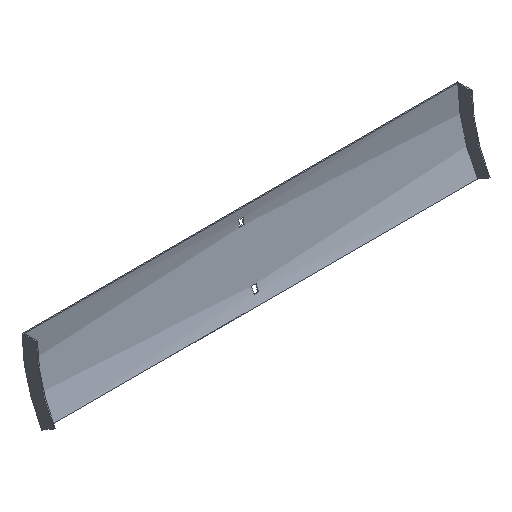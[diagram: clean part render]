
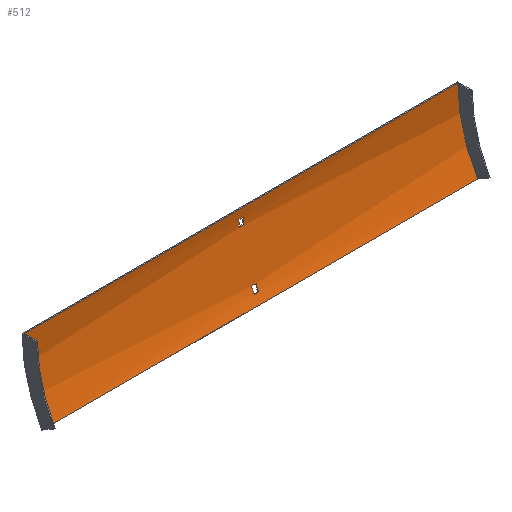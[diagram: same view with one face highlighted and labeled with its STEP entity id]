
A CAD part, isometric view. The second image highlights one B-rep face of the part: STEP entity #512.
In plain terms, the highlighted cylindrical face has radius 204 mm (diameter 408 mm), a partial arc.
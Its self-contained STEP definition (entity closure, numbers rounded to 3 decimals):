
#6 = DIRECTION ( 'NONE',  ( -1., 0., 0. ) ) ;
#9 = VERTEX_POINT ( 'NONE', #27 ) ;
#15 = EDGE_CURVE ( 'NONE', #68, #310, #190, .T. ) ;
#16 = ORIENTED_EDGE ( 'NONE', *, *, #15, .F. ) ;
#18 = VERTEX_POINT ( 'NONE', #457 ) ;
#24 = CARTESIAN_POINT ( 'NONE',  ( -3.25, -205.5, 0. ) ) ;
#27 = CARTESIAN_POINT ( 'NONE',  ( -302., -1.5, 0. ) ) ;
#30 = VECTOR ( 'NONE', #37, 1000. ) ;
#37 = DIRECTION ( 'NONE',  ( 1., 0., 0. ) ) ;
#46 = DIRECTION ( 'NONE',  ( 0., 0., 1. ) ) ;
#52 = CARTESIAN_POINT ( 'NONE',  ( -3.25, -19.269, -83.272 ) ) ;
#56 = LINE ( 'NONE', #241, #418 ) ;
#61 = CARTESIAN_POINT ( 'NONE',  ( 3.25, -19.269, -83.272 ) ) ;
#65 = DIRECTION ( 'NONE',  ( -1., 0., 0. ) ) ;
#68 = VERTEX_POINT ( 'NONE', #100 ) ;
#73 = AXIS2_PLACEMENT_3D ( 'NONE', #378, #242, #556 ) ;
#82 = EDGE_CURVE ( 'NONE', #282, #85, #243, .T. ) ;
#85 = VERTEX_POINT ( 'NONE', #518 ) ;
#94 = CARTESIAN_POINT ( 'NONE',  ( 302., -205.5, 0. ) ) ;
#95 = AXIS2_PLACEMENT_3D ( 'NONE', #246, #459, #46 ) ;
#100 = CARTESIAN_POINT ( 'NONE',  ( -3.25, -2.584, -21. ) ) ;
#110 = CARTESIAN_POINT ( 'NONE',  ( -3.25, -205.5, 0. ) ) ;
#117 = VECTOR ( 'NONE', #386, 1000. ) ;
#120 = LINE ( 'NONE', #214, #136 ) ;
#127 = VERTEX_POINT ( 'NONE', #52 ) ;
#131 = EDGE_CURVE ( 'NONE', #127, #275, #568, .T. ) ;
#136 = VECTOR ( 'NONE', #65, 1000. ) ;
#138 = EDGE_CURVE ( 'NONE', #392, #9, #343, .T. ) ;
#142 = CARTESIAN_POINT ( 'NONE',  ( -3.25, -23.137, -91.431 ) ) ;
#147 = ORIENTED_EDGE ( 'NONE', *, *, #605, .T. ) ;
#155 = EDGE_LOOP ( 'NONE', ( #267, #562, #357, #488 ) ) ;
#163 = DIRECTION ( 'NONE',  ( 0., 0., 1. ) ) ;
#165 = DIRECTION ( 'NONE',  ( 1., 0., 0. ) ) ;
#171 = CARTESIAN_POINT ( 'NONE',  ( 3.25, -2.584, -21. ) ) ;
#175 = CARTESIAN_POINT ( 'NONE',  ( -302., -28.831, -102. ) ) ;
#182 = CARTESIAN_POINT ( 'NONE',  ( 3.25, -23.137, -91.431 ) ) ;
#189 = CIRCLE ( 'NONE', #407, 204. ) ;
#190 = LINE ( 'NONE', #590, #30 ) ;
#198 = EDGE_CURVE ( 'NONE', #359, #569, #247, .T. ) ;
#200 = DIRECTION ( 'NONE',  ( -1., 0., 0. ) ) ;
#204 = ORIENTED_EDGE ( 'NONE', *, *, #367, .F. ) ;
#207 = ORIENTED_EDGE ( 'NONE', *, *, #493, .F. ) ;
#209 = CARTESIAN_POINT ( 'NONE',  ( -3.25, -1.853, -12. ) ) ;
#214 = CARTESIAN_POINT ( 'NONE',  ( 302., -1.5, 0. ) ) ;
#217 = AXIS2_PLACEMENT_3D ( 'NONE', #230, #502, #545 ) ;
#230 = CARTESIAN_POINT ( 'NONE',  ( 3.25, -205.5, 0. ) ) ;
#231 = ORIENTED_EDGE ( 'NONE', *, *, #329, .T. ) ;
#241 = CARTESIAN_POINT ( 'NONE',  ( 302., -28.831, -102. ) ) ;
#242 = DIRECTION ( 'NONE',  ( 1., 0., 0. ) ) ;
#243 = CIRCLE ( 'NONE', #399, 204. ) ;
#246 = CARTESIAN_POINT ( 'NONE',  ( 3.25, -205.5, 0. ) ) ;
#247 = LINE ( 'NONE', #328, #255 ) ;
#248 = EDGE_CURVE ( 'NONE', #85, #9, #120, .T. ) ;
#255 = VECTOR ( 'NONE', #6, 1000. ) ;
#267 = ORIENTED_EDGE ( 'NONE', *, *, #138, .F. ) ;
#275 = VERTEX_POINT ( 'NONE', #61 ) ;
#282 = VERTEX_POINT ( 'NONE', #489 ) ;
#284 = DIRECTION ( 'NONE',  ( 0., 0., 1. ) ) ;
#285 = CIRCLE ( 'NONE', #217, 204. ) ;
#292 = DIRECTION ( 'NONE',  ( 1., 0., 0. ) ) ;
#299 = DIRECTION ( 'NONE',  ( 1., 0., 0. ) ) ;
#300 = VERTEX_POINT ( 'NONE', #209 ) ;
#302 = ORIENTED_EDGE ( 'NONE', *, *, #198, .T. ) ;
#310 = VERTEX_POINT ( 'NONE', #171 ) ;
#314 = CIRCLE ( 'NONE', #95, 204. ) ;
#322 = EDGE_CURVE ( 'NONE', #300, #68, #355, .T. ) ;
#328 = CARTESIAN_POINT ( 'NONE',  ( 303.5, -23.137, -91.431 ) ) ;
#329 = EDGE_CURVE ( 'NONE', #569, #127, #189, .T. ) ;
#339 = CARTESIAN_POINT ( 'NONE',  ( 303.5, -19.269, -83.272 ) ) ;
#343 = CIRCLE ( 'NONE', #73, 204. ) ;
#349 = DIRECTION ( 'NONE',  ( 0., 0., -1. ) ) ;
#354 = EDGE_LOOP ( 'NONE', ( #302, #231, #439, #147 ) ) ;
#355 = CIRCLE ( 'NONE', #508, 204. ) ;
#357 = ORIENTED_EDGE ( 'NONE', *, *, #82, .T. ) ;
#359 = VERTEX_POINT ( 'NONE', #182 ) ;
#367 = EDGE_CURVE ( 'NONE', #310, #18, #285, .T. ) ;
#378 = CARTESIAN_POINT ( 'NONE',  ( -302., -205.5, 0. ) ) ;
#386 = DIRECTION ( 'NONE',  ( -1., 0., 0. ) ) ;
#392 = VERTEX_POINT ( 'NONE', #175 ) ;
#399 = AXIS2_PLACEMENT_3D ( 'NONE', #94, #292, #284 ) ;
#407 = AXIS2_PLACEMENT_3D ( 'NONE', #110, #165, #349 ) ;
#418 = VECTOR ( 'NONE', #566, 1000. ) ;
#423 = CYLINDRICAL_SURFACE ( 'NONE', #550, 204. ) ;
#428 = CARTESIAN_POINT ( 'NONE',  ( 303.5, -205.5, 0. ) ) ;
#439 = ORIENTED_EDGE ( 'NONE', *, *, #131, .T. ) ;
#440 = DIRECTION ( 'NONE',  ( -1., 0., 0. ) ) ;
#457 = CARTESIAN_POINT ( 'NONE',  ( 3.25, -1.853, -12. ) ) ;
#459 = DIRECTION ( 'NONE',  ( -1., 0., 0. ) ) ;
#462 = CARTESIAN_POINT ( 'NONE',  ( 303.5, -1.853, -12. ) ) ;
#466 = FACE_BOUND ( 'NONE', #354, .T. ) ;
#486 = ORIENTED_EDGE ( 'NONE', *, *, #322, .F. ) ;
#488 = ORIENTED_EDGE ( 'NONE', *, *, #248, .T. ) ;
#489 = CARTESIAN_POINT ( 'NONE',  ( 302., -28.831, -102. ) ) ;
#493 = EDGE_CURVE ( 'NONE', #18, #300, #520, .T. ) ;
#496 = EDGE_LOOP ( 'NONE', ( #486, #207, #204, #16 ) ) ;
#502 = DIRECTION ( 'NONE',  ( 1., 0., 0. ) ) ;
#508 = AXIS2_PLACEMENT_3D ( 'NONE', #24, #440, #163 ) ;
#510 = EDGE_CURVE ( 'NONE', #282, #392, #56, .T. ) ;
#512 = ADVANCED_FACE ( 'NONE', ( #603, #553, #466 ), #423, .F. ) ;
#517 = DIRECTION ( 'NONE',  ( 0., 0., 1. ) ) ;
#518 = CARTESIAN_POINT ( 'NONE',  ( 302., -1.5, 0. ) ) ;
#520 = LINE ( 'NONE', #462, #117 ) ;
#545 = DIRECTION ( 'NONE',  ( 0., 0., -1. ) ) ;
#550 = AXIS2_PLACEMENT_3D ( 'NONE', #428, #200, #517 ) ;
#553 = FACE_OUTER_BOUND ( 'NONE', #155, .T. ) ;
#556 = DIRECTION ( 'NONE',  ( 0., 0., 1. ) ) ;
#562 = ORIENTED_EDGE ( 'NONE', *, *, #510, .F. ) ;
#566 = DIRECTION ( 'NONE',  ( -1., 0., 0. ) ) ;
#568 = LINE ( 'NONE', #339, #599 ) ;
#569 = VERTEX_POINT ( 'NONE', #142 ) ;
#590 = CARTESIAN_POINT ( 'NONE',  ( 303.5, -2.584, -21. ) ) ;
#599 = VECTOR ( 'NONE', #299, 1000. ) ;
#603 = FACE_BOUND ( 'NONE', #496, .T. ) ;
#605 = EDGE_CURVE ( 'NONE', #275, #359, #314, .T. ) ;
